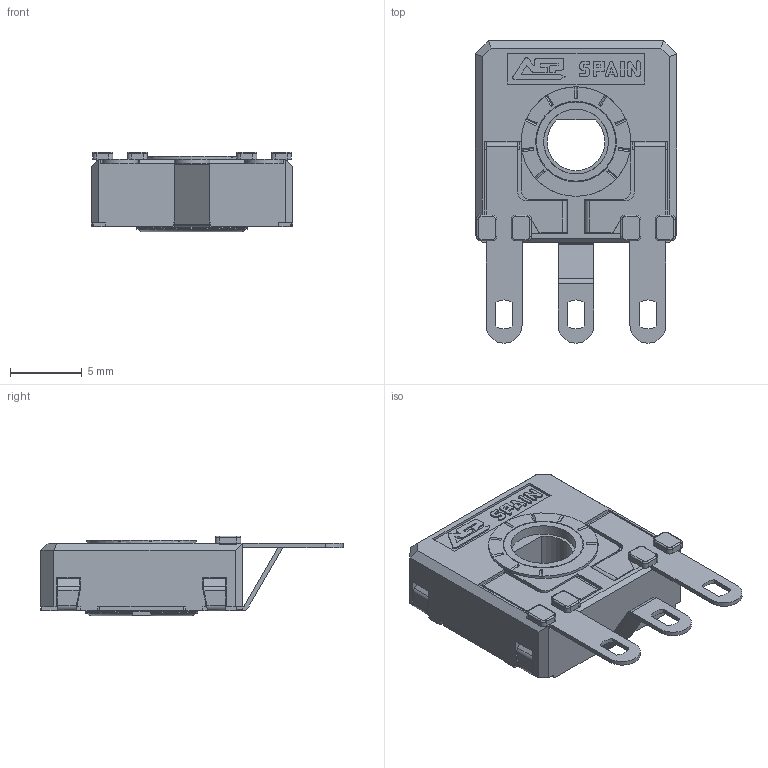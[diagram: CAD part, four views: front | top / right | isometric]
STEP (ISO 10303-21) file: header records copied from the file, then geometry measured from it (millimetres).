
FILE_DESCRIPTION(/* description */ (''),/* implementation_level */ '2;1');
FILE_NAME(/* name */ 'C:\Users\CEM\Desktop\ENVIAR\TRANSICION 3D CATALOGOS\RS14FHC0 RT-RO.stp',/* time_stamp */ '2025-12-10T10:39:47+01:00',/* author */ ('CEM'),/* organization */ (''),/* preprocessor_version */ 'ST-DEVELOPER v16.13',/* originating_system */ 'Autodesk Inventor 2018',/* authorisation */ '');
FILE_SCHEMA (('AUTOMOTIVE_DESIGN { 1 0 10303 214 3 1 1 }'));
Length unit declared in the file: millimetre
Products named in the file (1): CARCASA CA14 PGA
Bounding box: 14 x 21 x 5.55 mm (x, y, z)
Volume: 526.3 mm3; surface area: 1471 mm2
Topology: 1 solids, 1 shells, 652 faces, 1831 edges, 1176 vertices
Faces by surface type: plane 472, cylinder 143, torus 23, bspline 8, cone 6
Full cylindrical faces by diameter (mm): 4.5 x1, 5.5 x1, 5.6 x1, 5.752 x1, 6.8 x1, 7.6 x1
Entity records: 21077 total; most frequent: CARTESIAN_POINT 3850, ORIENTED_EDGE 3630, DIRECTION 3447, EDGE_CURVE 1815, LINE 1417, VECTOR 1417, VERTEX_POINT 1170, AXIS2_PLACEMENT_3D 1015
